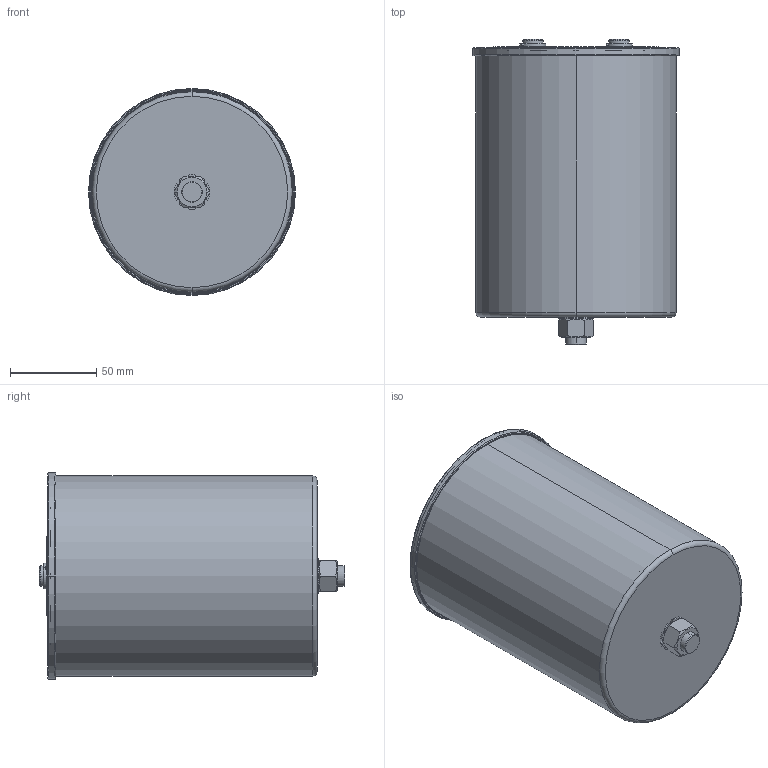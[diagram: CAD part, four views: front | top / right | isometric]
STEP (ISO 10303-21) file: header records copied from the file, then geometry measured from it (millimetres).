
FILE_DESCRIPTION (( 'STEP AP203' ), '1' );
FILE_NAME ('B25680Bx_116x156_161.STEP', '2021-09-13T06:42:10', ( '' ), ( '' ), 'SwSTEP 2.0', 'SolidWorks 2017', '' );
FILE_SCHEMA (( 'CONFIG_CONTROL_DESIGN' ));
Length unit declared in the file: millimetre
Products named in the file (1): B25680Bx_116x156_161
Bounding box: 120 x 177 x 120 mm (x, y, z)
Volume: 125264.9 mm3; surface area: 184417.9 mm2
Topology: 1 solids, 7 shells, 385 faces, 908 edges, 572 vertices
Faces by surface type: plane 153, cylinder 142, torus 42, cone 36, bspline 12
Entity records: 12405 total; most frequent: CARTESIAN_POINT 3162, DIRECTION 2092, ORIENTED_EDGE 1808, EDGE_CURVE 904, AXIS2_PLACEMENT_3D 850, VERTEX_POINT 572, CIRCLE 476, EDGE_LOOP 436
